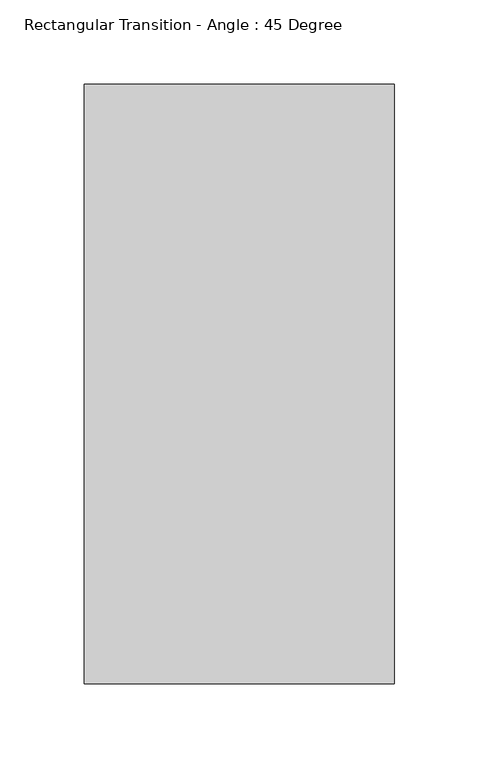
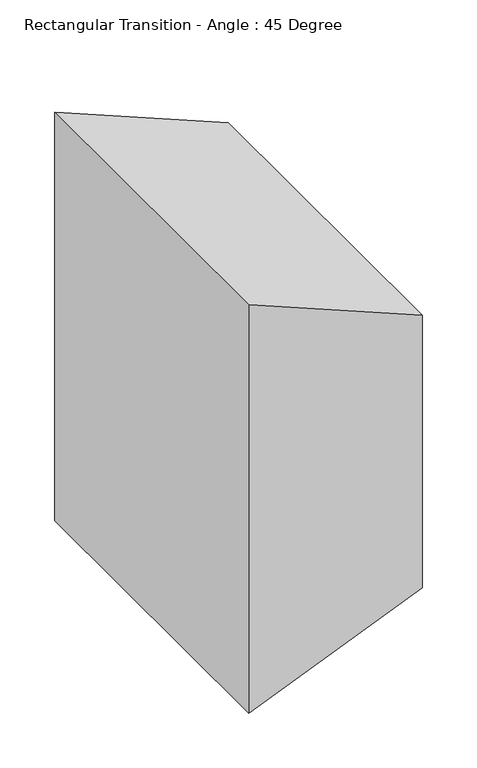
"""IFC4 building model written with IfcOpenShell, lengths in millimetres: duct fitting geometry, Rectangular Transition - Angle : 45 Degree."""

from ifc_helpers import new_model, si_unit, frame, origin, place, context, project, spatial, polyline, outline, extrude, source, transform, mapped, element, save


def rectangular_transition_angle_45_degree_1844116c(model_context):
    return source(origin(), model_context, "Body", "SweptSolid", [
        extrude(outline(polyline([(228.6, 0.0), (-228.6, 0.0), (-152.4, 183.9630735), (152.4, 183.9630735), (228.6, 0.0)])), frame((0.0, -177.8, 0.0), z_axis=(0.0, 1.0, 0.0), x_axis=(0.0, 0.0, 1.0)), (0.0, 0.0, 1.0), 355.6),
    ])


if __name__ == "__main__":
    model = new_model("IFC4")
    model_context = context("Model", 3, world=origin())
    ifc_project = project(units=[si_unit("LENGTHUNIT", "METRE", prefix="MILLI")], contexts=[model_context])
    site = spatial("IfcSite", under=ifc_project)
    building = spatial("IfcBuilding", under=site)
    placement = place(None, origin())
    rectangular_transition_angle_45_degree_shape = rectangular_transition_angle_45_degree_1844116c(model_context)
    element("IfcDuctFitting", 1, ObjectType="Rectangular Transition - Angle : 45 Degree", at=placement, inside=building, context=model_context, shape_type="MappedRepresentation", body=[
        mapped(rectangular_transition_angle_45_degree_shape, transform((0.0, 0.0, 0.0), x_axis=(1.0, 0.0, 0.0), y_axis=(0.0, 1.0, 0.0), z_axis=(0.0, 0.0, 1.0))),
    ])
    save(model, "model.ifc")
